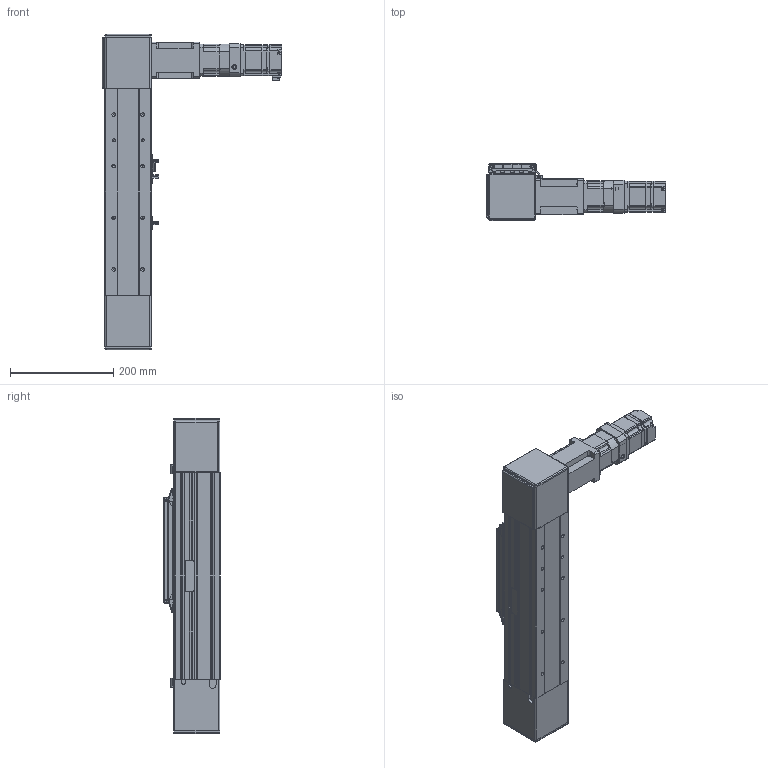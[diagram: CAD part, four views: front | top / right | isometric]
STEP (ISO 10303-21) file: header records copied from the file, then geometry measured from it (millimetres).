
FILE_DESCRIPTION (( 'STEP AP203' ), '1' );
FILE_NAME ('PCB090SRN-0000-ST100-20NR00-N-I3R.STEP', '2015-10-16T00:43:47', ( '' ), ( '' ), 'SwSTEP 2.0', 'SolidWorks 2012', '' );
FILE_SCHEMA (( 'CONFIG_CONTROL_DESIGN' ));
Length unit declared in the file: millimetre
Products named in the file (12): jc42c; sgmjv_02a_a21; PCB090SRN-0000-ST100-20NR00-N-I3R; PCS90 SENSOR DOG; PGX62-H-1_3; EE_SX672; MOTOR BRACKET 62(SHAFT TYPE); PCB090 Idler Pulley Block; PCB090 Carrier; PCB090 Drive Pulley Block; 090_SLIDER_END_COVER_ANY; PCB090 BASE FRAME-100ST
Assembly tree (14 placements, depth 2):
  PCB090SRN-0000-ST100-20NR00-N-I3R
    PCB090 BASE FRAME-100ST
    PCB090 Carrier
    PCB090 Drive Pulley Block
    PCB090 Idler Pulley Block
    090_SLIDER_END_COVER_ANY  x2
    EE_SX672  x3
    PCS90 SENSOR DOG
    MOTOR BRACKET 62(SHAFT TYPE)
    PGX62-H-1_3
    jc42c
    sgmjv_02a_a21
Bounding box: 347.1 x 110 x 610 mm (x, y, z)
Volume: 4178400.8 mm3; surface area: 813266.5 mm2
Topology: 39 solids, 40 shells, 2720 faces, 7203 edges, 4610 vertices
Faces by surface type: plane 1406, cylinder 983, cone 195, bspline 112, torus 16, sphere 8
Entity records: 78884 total; most frequent: CARTESIAN_POINT 18644, ORIENTED_EDGE 12308, DIRECTION 12257, EDGE_CURVE 6179, AXIS2_PLACEMENT_3D 4217, VERTEX_POINT 4011, VECTOR 3823, LINE 3823
